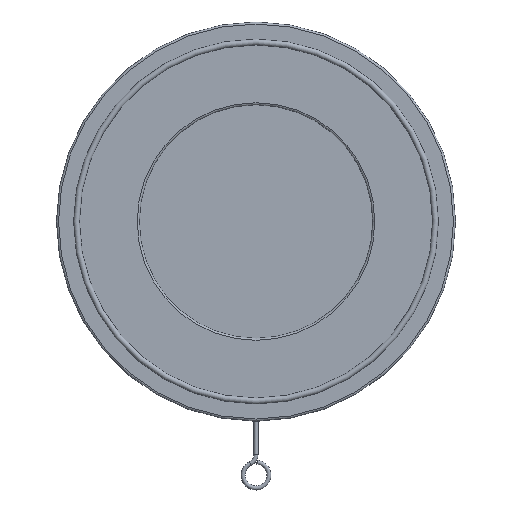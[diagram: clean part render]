
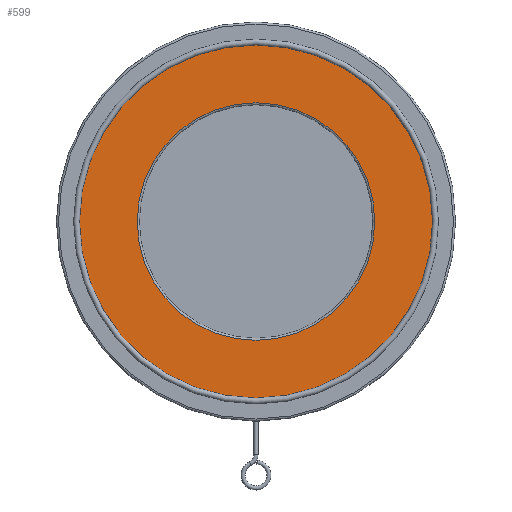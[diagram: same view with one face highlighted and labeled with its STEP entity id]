
A CAD part, top view. The second image highlights one B-rep face of the part: STEP entity #599.
In plain terms, the highlighted planar face has unit normal (0, 0, 1).
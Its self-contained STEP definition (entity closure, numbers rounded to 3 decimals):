
#599 = ADVANCED_FACE( '', ( #1276, #1277 ), #1278, .F. );
#1276 = FACE_BOUND( '', #2043, .T. );
#1277 = FACE_OUTER_BOUND( '', #2044, .T. );
#1278 = PLANE( '', #2045 );
#2043 = EDGE_LOOP( '', ( #4300 ) );
#2044 = EDGE_LOOP( '', ( #4301 ) );
#2045 = AXIS2_PLACEMENT_3D( '', #4302, #4303, #4304 );
#4300 = ORIENTED_EDGE( '', *, *, #4933, .T. );
#4301 = ORIENTED_EDGE( '', *, *, #5387, .T. );
#4302 = CARTESIAN_POINT( '', ( 0., 0., 15. ) );
#4303 = DIRECTION( '', ( 0., 0., -1. ) );
#4304 = DIRECTION( '', ( -1., 0., 0. ) );
#4933 = EDGE_CURVE( '', #5821, #5821, #5822, .T. );
#5387 = EDGE_CURVE( '', #6446, #6446, #6447, .T. );
#5821 = VERTEX_POINT( '', #7848 );
#5822 = CIRCLE( '', #7849, 115.5 );
#6446 = VERTEX_POINT( '', #9615 );
#6447 = CIRCLE( '', #9616, 171.672 );
#7848 = CARTESIAN_POINT( '', ( -115.5, 0., 15. ) );
#7849 = AXIS2_PLACEMENT_3D( '', #9790, #9791, #9792 );
#9615 = CARTESIAN_POINT( '', ( 171.672, 0., 15. ) );
#9616 = AXIS2_PLACEMENT_3D( '', #10032, #10033, #10034 );
#9790 = CARTESIAN_POINT( '', ( 0., 0., 15. ) );
#9791 = DIRECTION( '', ( 0., 0., -1. ) );
#9792 = DIRECTION( '', ( -1., 0., 0. ) );
#10032 = CARTESIAN_POINT( '', ( 0., 0., 15. ) );
#10033 = DIRECTION( '', ( 0., 0., 1. ) );
#10034 = DIRECTION( '', ( 1., 0., 0. ) );
